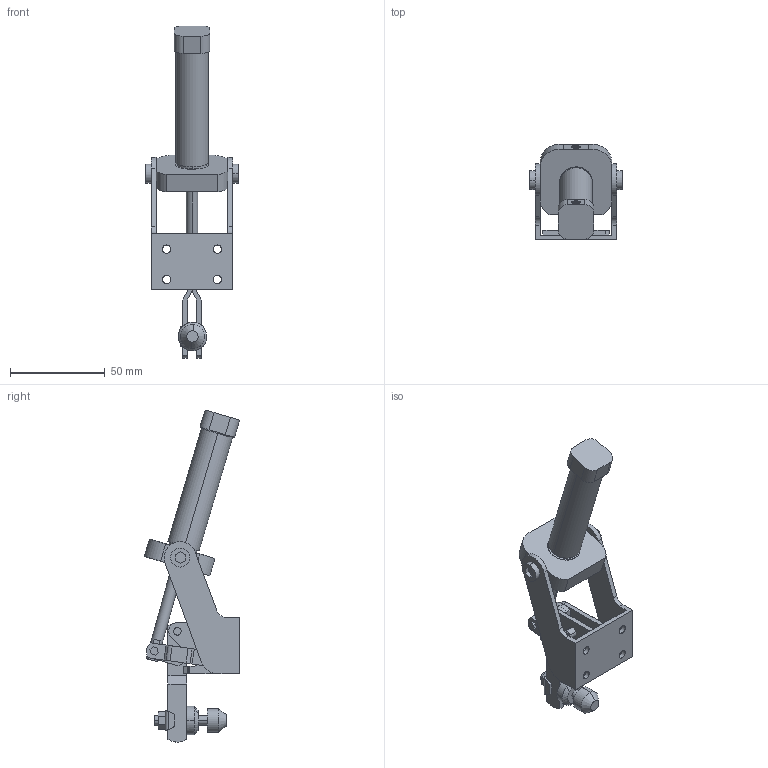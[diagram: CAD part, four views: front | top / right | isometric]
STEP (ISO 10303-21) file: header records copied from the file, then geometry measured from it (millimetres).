
FILE_DESCRIPTION (( 'STEP AP214' ), '1' );
FILE_NAME ('620Y-1 Montaj.STEP', '2017-05-03T08:44:57', ( '' ), ( '' ), 'SwSTEP 2.0', 'SolidWorks 2015', '' );
FILE_SCHEMA (( 'AUTOMOTIVE_DESIGN' ));
Length unit declared in the file: millimetre
Products named in the file (21): 620Y-1-17 silindir; 620Y-1-14 Part4; 620Y-1-2 baski lamasi; 620Y-1-9 halka; 620Y-1-15 Ayak; 620Y-1-1 ayak; 620Y-1 Montaj; 620Y-1-21 pramatik ayak tablasi; 620Y-1-28 Part2; 620Y-1-27 Tirnak; 620Y-1-11 mil; 620Y-1-16 Part6; 620Y-1-20 yarikli pim; 620Y-1-10 lastik; 620Y-1-13 ozel somun; 620Y-1-18 somun; 620Y-1-5 civata; 620Y-1-19 u papuc; 620Y-1-7 civata; 620Y-1-6 civata; 620Y-1-12 montaj percini
Assembly tree (25 placements, depth 2):
  620Y-1 Montaj
    620Y-1-9 halka
    620Y-1-2 baski lamasi  x2
    620Y-1-14 Part4
    620Y-1-17 silindir
    620Y-1-12 montaj percini  x2
    620Y-1-6 civata
    620Y-1-7 civata  x2
    620Y-1-19 u papuc
    620Y-1-5 civata
    620Y-1-18 somun
    620Y-1-13 ozel somun
    620Y-1-10 lastik
    620Y-1-20 yarikli pim
    620Y-1-16 Part6
    620Y-1-11 mil
    620Y-1-27 Tirnak  x2
    620Y-1-28 Part2  x2
    620Y-1-21 pramatik ayak tablasi
    620Y-1-1 ayak
    620Y-1-15 Ayak
Bounding box: 49 x 50.48 x 175.51 mm (x, y, z)
Volume: 54922 mm3; surface area: 37147 mm2
Topology: 25 solids, 25 shells, 612 faces, 1560 edges, 1038 vertices
Faces by surface type: plane 307, cylinder 241, bspline 56, cone 8
Entity records: 26849 total; most frequent: CARTESIAN_POINT 12623, ORIENTED_EDGE 2730, DIRECTION 2464, EDGE_CURVE 1365, VERTEX_POINT 908, AXIS2_PLACEMENT_3D 824, VECTOR 816, LINE 816
